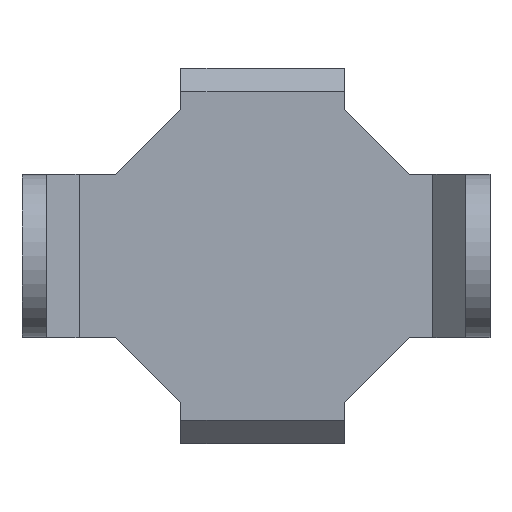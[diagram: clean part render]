
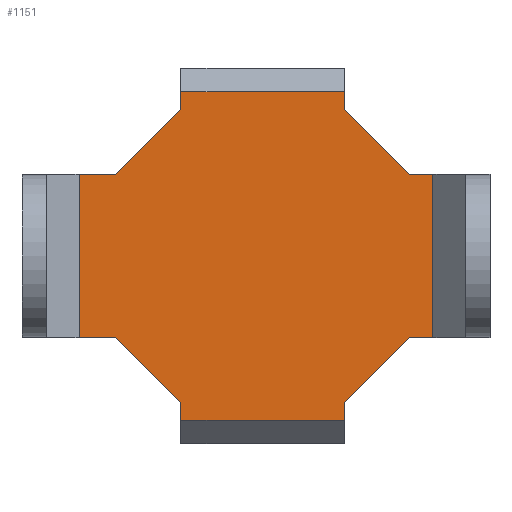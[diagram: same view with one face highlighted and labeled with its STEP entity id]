
A CAD part, left-side view. The second image highlights one B-rep face of the part: STEP entity #1151.
In plain terms, the highlighted planar face has unit normal (-1, 0, 0).
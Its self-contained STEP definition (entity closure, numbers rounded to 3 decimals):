
#146=FACE_OUTER_BOUND('',#235,.T.);
#235=EDGE_LOOP('',(#973,#974,#975,#976,#977,#978,#979,#980,#981,#982,#983,
#984,#985,#986,#987,#988));
#309=LINE('',#1762,#430);
#312=LINE('',#1769,#433);
#326=LINE('',#1801,#447);
#328=LINE('',#1805,#449);
#333=LINE('',#1814,#454);
#343=LINE('',#1840,#464);
#345=LINE('',#1844,#466);
#346=LINE('',#1846,#467);
#347=LINE('',#1848,#468);
#348=LINE('',#1849,#469);
#349=LINE('',#1851,#470);
#350=LINE('',#1853,#471);
#351=LINE('',#1854,#472);
#352=LINE('',#1856,#473);
#353=LINE('',#1857,#474);
#354=LINE('',#1858,#475);
#430=VECTOR('',#1446,10.);
#433=VECTOR('',#1451,10.);
#447=VECTOR('',#1479,10.);
#449=VECTOR('',#1483,10.);
#454=VECTOR('',#1490,10.);
#464=VECTOR('',#1512,10.);
#466=VECTOR('',#1516,10.);
#467=VECTOR('',#1517,10.);
#468=VECTOR('',#1518,10.);
#469=VECTOR('',#1519,10.);
#470=VECTOR('',#1520,10.);
#471=VECTOR('',#1521,10.);
#472=VECTOR('',#1522,10.);
#473=VECTOR('',#1523,10.);
#474=VECTOR('',#1524,10.);
#475=VECTOR('',#1525,10.);
#560=VERTEX_POINT('',#1759);
#561=VERTEX_POINT('',#1761);
#563=VERTEX_POINT('',#1766);
#564=VERTEX_POINT('',#1768);
#574=VERTEX_POINT('',#1798);
#575=VERTEX_POINT('',#1800);
#576=VERTEX_POINT('',#1804);
#579=VERTEX_POINT('',#1812);
#588=VERTEX_POINT('',#1837);
#589=VERTEX_POINT('',#1839);
#590=VERTEX_POINT('',#1843);
#591=VERTEX_POINT('',#1845);
#592=VERTEX_POINT('',#1847);
#593=VERTEX_POINT('',#1850);
#594=VERTEX_POINT('',#1852);
#595=VERTEX_POINT('',#1855);
#691=EDGE_CURVE('',#560,#561,#309,.T.);
#694=EDGE_CURVE('',#563,#564,#312,.T.);
#710=EDGE_CURVE('',#574,#575,#326,.T.);
#712=EDGE_CURVE('',#561,#576,#328,.T.);
#717=EDGE_CURVE('',#560,#579,#333,.T.);
#729=EDGE_CURVE('',#588,#589,#343,.T.);
#731=EDGE_CURVE('',#590,#589,#345,.T.);
#732=EDGE_CURVE('',#588,#591,#346,.T.);
#733=EDGE_CURVE('',#592,#591,#347,.T.);
#734=EDGE_CURVE('',#564,#592,#348,.T.);
#735=EDGE_CURVE('',#593,#563,#349,.T.);
#736=EDGE_CURVE('',#594,#593,#350,.T.);
#737=EDGE_CURVE('',#594,#575,#351,.T.);
#738=EDGE_CURVE('',#574,#595,#352,.T.);
#739=EDGE_CURVE('',#576,#595,#353,.T.);
#740=EDGE_CURVE('',#590,#579,#354,.T.);
#973=ORIENTED_EDGE('',*,*,#731,.T.);
#974=ORIENTED_EDGE('',*,*,#729,.F.);
#975=ORIENTED_EDGE('',*,*,#732,.T.);
#976=ORIENTED_EDGE('',*,*,#733,.F.);
#977=ORIENTED_EDGE('',*,*,#734,.F.);
#978=ORIENTED_EDGE('',*,*,#694,.F.);
#979=ORIENTED_EDGE('',*,*,#735,.F.);
#980=ORIENTED_EDGE('',*,*,#736,.F.);
#981=ORIENTED_EDGE('',*,*,#737,.T.);
#982=ORIENTED_EDGE('',*,*,#710,.F.);
#983=ORIENTED_EDGE('',*,*,#738,.T.);
#984=ORIENTED_EDGE('',*,*,#739,.F.);
#985=ORIENTED_EDGE('',*,*,#712,.F.);
#986=ORIENTED_EDGE('',*,*,#691,.F.);
#987=ORIENTED_EDGE('',*,*,#717,.T.);
#988=ORIENTED_EDGE('',*,*,#740,.F.);
#1096=PLANE('',#1246);
#1151=ADVANCED_FACE('',(#146),#1096,.T.);
#1246=AXIS2_PLACEMENT_3D('',#1842,#1514,#1515);
#1446=DIRECTION('',(0.,-1.,0.));
#1451=DIRECTION('',(0.,1.,0.));
#1479=DIRECTION('',(0.,0.,-1.));
#1483=DIRECTION('',(0.,0.,-1.));
#1490=DIRECTION('',(0.,0.,-1.));
#1512=DIRECTION('',(0.,0.,1.));
#1514=DIRECTION('center_axis',(-1.,0.,0.));
#1515=DIRECTION('ref_axis',(0.,0.,1.));
#1516=DIRECTION('',(0.,1.,0.));
#1517=DIRECTION('',(0.,-1.,0.));
#1518=DIRECTION('',(0.,0.707,0.707));
#1519=DIRECTION('',(0.,0.,1.));
#1520=DIRECTION('',(0.,0.,-1.));
#1521=DIRECTION('',(0.,0.707,-0.707));
#1522=DIRECTION('',(0.,-1.,0.));
#1523=DIRECTION('',(0.,1.,0.));
#1524=DIRECTION('',(0.,-0.707,-0.707));
#1525=DIRECTION('',(0.,-0.707,0.707));
#1759=CARTESIAN_POINT('',(24.,10.,20.121));
#1761=CARTESIAN_POINT('',(24.,-10.,20.121));
#1762=CARTESIAN_POINT('',(24.,0.6,20.121));
#1766=CARTESIAN_POINT('',(24.,-10.,-20.121));
#1768=CARTESIAN_POINT('',(24.,10.,-20.121));
#1769=CARTESIAN_POINT('',(24.,0.6,-20.121));
#1798=CARTESIAN_POINT('',(24.,-20.9,10.));
#1800=CARTESIAN_POINT('',(24.,-20.9,-10.));
#1801=CARTESIAN_POINT('',(24.,-20.9,0.117));
#1804=CARTESIAN_POINT('',(24.,-10.,18.));
#1805=CARTESIAN_POINT('',(24.,-10.,12.567));
#1812=CARTESIAN_POINT('',(24.,10.,18.));
#1814=CARTESIAN_POINT('',(24.,10.,12.567));
#1837=CARTESIAN_POINT('',(24.,22.5,-10.));
#1839=CARTESIAN_POINT('',(24.,22.5,10.));
#1840=CARTESIAN_POINT('',(24.,22.5,0.117));
#1842=CARTESIAN_POINT('Origin',(24.,0.8,0.233));
#1843=CARTESIAN_POINT('',(24.,18.,10.));
#1844=CARTESIAN_POINT('',(24.,-12.05,10.));
#1845=CARTESIAN_POINT('',(24.,18.,-10.));
#1846=CARTESIAN_POINT('',(24.,-12.05,-10.));
#1847=CARTESIAN_POINT('',(24.,10.,-18.));
#1848=CARTESIAN_POINT('',(24.,14.258,-13.742));
#1849=CARTESIAN_POINT('',(24.,10.,-14.633));
#1850=CARTESIAN_POINT('',(24.,-10.,-18.));
#1851=CARTESIAN_POINT('',(24.,-10.,-14.633));
#1852=CARTESIAN_POINT('',(24.,-18.,-10.));
#1853=CARTESIAN_POINT('',(24.,-13.858,-14.142));
#1854=CARTESIAN_POINT('',(24.,-12.05,-10.));
#1855=CARTESIAN_POINT('',(24.,-18.,10.));
#1856=CARTESIAN_POINT('',(24.,-12.05,10.));
#1857=CARTESIAN_POINT('',(24.,-13.742,14.258));
#1858=CARTESIAN_POINT('',(24.,14.142,13.858));
